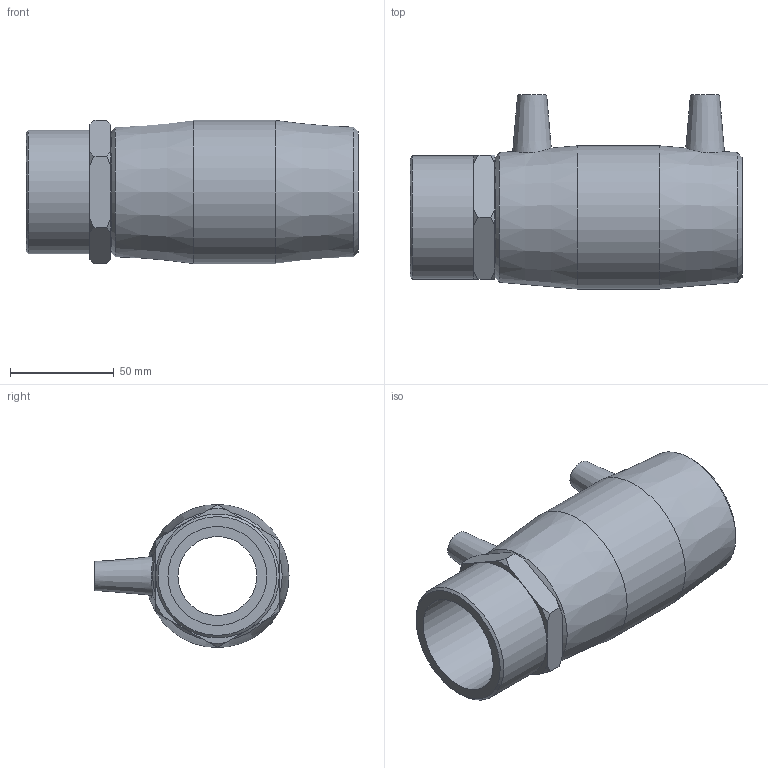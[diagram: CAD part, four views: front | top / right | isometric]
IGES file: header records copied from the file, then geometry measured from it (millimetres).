
Global section: file name: 492104050020.ipt; native system: Autodesk Inventor 2015; preprocessor: unknown; author: KIM; date: 20200202.122320; units: millimetre
Bounding box: 160 x 93.5 x 69 mm (x, y, z)
Volume: 294482.4 mm3; surface area: 66660.8 mm2
Topology: 1 solids, 2 shells, 54 faces, 129 edges, 88 vertices
Faces by surface type: plane 21, cone 19, revolution 8, cylinder 6
Full cylindrical faces by diameter (mm): 4 x2, 50 x2, 59.614 x1, 69 x1
